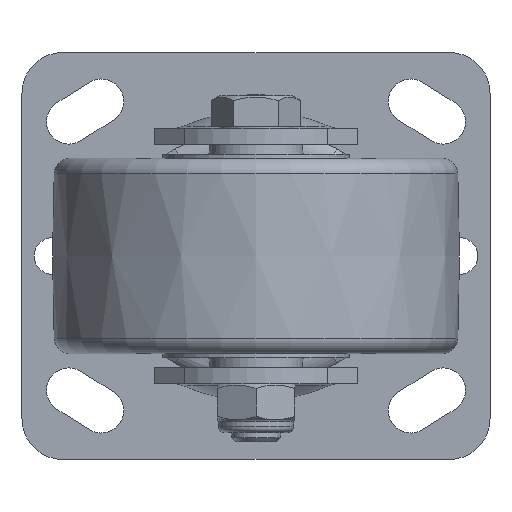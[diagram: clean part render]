
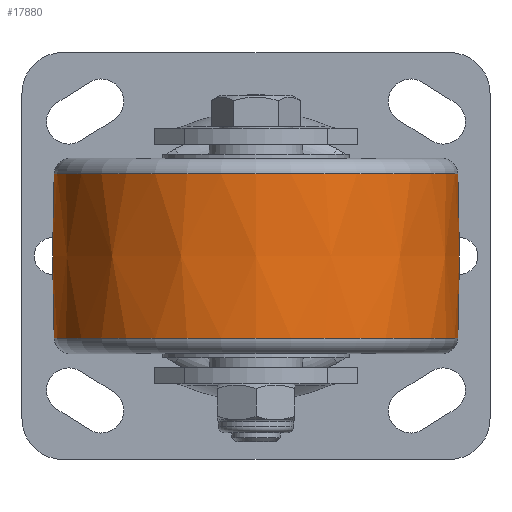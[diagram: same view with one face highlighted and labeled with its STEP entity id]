
A CAD part, front view. The second image highlights one B-rep face of the part: STEP entity #17880.
In plain terms, the highlighted free-form (B-spline) face has degree [2, 2] with [3, 9] control points.
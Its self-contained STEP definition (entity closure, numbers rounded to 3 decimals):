
#43=(
BOUNDED_SURFACE()
B_SPLINE_SURFACE(2,2,((#25635,#25636,#25637,#25638,#25639,#25640,#25641,
#25642,#25643),(#25644,#25645,#25646,#25647,#25648,#25649,#25650,#25651,
#25652),(#25653,#25654,#25655,#25656,#25657,#25658,#25659,#25660,#25661)),
 .UNSPECIFIED.,.F.,.T.,.F.)
B_SPLINE_SURFACE_WITH_KNOTS((3,3),(3,2,2,2,3),(-0.04,0.04),
(-3.142,-1.571,0.,1.571,3.142),
 .UNSPECIFIED.)
GEOMETRIC_REPRESENTATION_ITEM()
RATIONAL_B_SPLINE_SURFACE(((1.,0.707,1.,0.707,1.,
0.707,1.,0.707,1.),(0.999,0.707,
0.999,0.707,0.999,0.707,0.999,
0.707,0.999),(1.,0.707,1.,0.707,
1.,0.707,1.,0.707,1.)))
REPRESENTATION_ITEM('')
SURFACE()
);
#2340=FACE_OUTER_BOUND('',#3384,.T.);
#3384=EDGE_LOOP('',(#13841,#13842,#13843,#13844));
#7373=CIRCLE('',#18806,49.593);
#7375=CIRCLE('',#18808,49.593);
#7376=CIRCLE('',#18809,500.);
#8150=VERTEX_POINT('',#25632);
#8151=VERTEX_POINT('',#25662);
#10247=EDGE_CURVE('',#8150,#8150,#7373,.T.);
#10249=EDGE_CURVE('',#8151,#8151,#7375,.T.);
#10250=EDGE_CURVE('',#8151,#8150,#7376,.T.);
#13841=ORIENTED_EDGE('',*,*,#10249,.F.);
#13842=ORIENTED_EDGE('',*,*,#10250,.T.);
#13843=ORIENTED_EDGE('',*,*,#10247,.T.);
#13844=ORIENTED_EDGE('',*,*,#10250,.F.);
#17880=ADVANCED_FACE('',(#2340),#43,.F.);
#18806=AXIS2_PLACEMENT_3D('',#25633,#20387,#20388);
#18808=AXIS2_PLACEMENT_3D('',#25663,#20391,#20392);
#18809=AXIS2_PLACEMENT_3D('',#25664,#20393,#20394);
#20387=DIRECTION('center_axis',(0.,0.,-1.));
#20388=DIRECTION('ref_axis',(0.,-1.,0.));
#20391=DIRECTION('center_axis',(0.,0.,-1.));
#20392=DIRECTION('ref_axis',(0.,-1.,0.));
#20393=DIRECTION('center_axis',(1.,0.,0.));
#20394=DIRECTION('ref_axis',(0.,1.,0.));
#25632=CARTESIAN_POINT('',(0.,-42.407,20.161));
#25633=CARTESIAN_POINT('Origin',(0.,-92.,
20.161));
#25635=CARTESIAN_POINT('Ctrl Pts',(0.,-42.407,
20.161));
#25636=CARTESIAN_POINT('Ctrl Pts',(49.593,-42.407,20.161));
#25637=CARTESIAN_POINT('Ctrl Pts',(49.593,-92.,20.161));
#25638=CARTESIAN_POINT('Ctrl Pts',(49.593,-141.593,20.161));
#25639=CARTESIAN_POINT('Ctrl Pts',(0.,-141.593,
20.161));
#25640=CARTESIAN_POINT('Ctrl Pts',(-49.593,-141.593,20.161));
#25641=CARTESIAN_POINT('Ctrl Pts',(-49.593,-92.,
20.161));
#25642=CARTESIAN_POINT('Ctrl Pts',(-49.593,-42.407,
20.161));
#25643=CARTESIAN_POINT('Ctrl Pts',(0.,-42.407,
20.161));
#25644=CARTESIAN_POINT('Ctrl Pts',(0.,-41.593,
0.));
#25645=CARTESIAN_POINT('Ctrl Pts',(50.407,-41.593,0.));
#25646=CARTESIAN_POINT('Ctrl Pts',(50.407,-92.,0.));
#25647=CARTESIAN_POINT('Ctrl Pts',(50.407,-142.407,0.));
#25648=CARTESIAN_POINT('Ctrl Pts',(0.,-142.407,
0.));
#25649=CARTESIAN_POINT('Ctrl Pts',(-50.407,-142.407,
0.));
#25650=CARTESIAN_POINT('Ctrl Pts',(-50.407,-92.,
0.));
#25651=CARTESIAN_POINT('Ctrl Pts',(-50.407,-41.593,
0.));
#25652=CARTESIAN_POINT('Ctrl Pts',(0.,-41.593,
0.));
#25653=CARTESIAN_POINT('Ctrl Pts',(0.,-42.407,
-20.161));
#25654=CARTESIAN_POINT('Ctrl Pts',(49.593,-42.407,-20.161));
#25655=CARTESIAN_POINT('Ctrl Pts',(49.593,-92.,-20.161));
#25656=CARTESIAN_POINT('Ctrl Pts',(49.593,-141.593,-20.161));
#25657=CARTESIAN_POINT('Ctrl Pts',(0.,-141.593,
-20.161));
#25658=CARTESIAN_POINT('Ctrl Pts',(-49.593,-141.593,-20.161));
#25659=CARTESIAN_POINT('Ctrl Pts',(-49.593,-92.,
-20.161));
#25660=CARTESIAN_POINT('Ctrl Pts',(-49.593,-42.407,
-20.161));
#25661=CARTESIAN_POINT('Ctrl Pts',(0.,-42.407,
-20.161));
#25662=CARTESIAN_POINT('',(0.,-42.407,-20.161));
#25663=CARTESIAN_POINT('Origin',(0.,-92.,
-20.161));
#25664=CARTESIAN_POINT('Origin',(0.,-542.,
0.));
